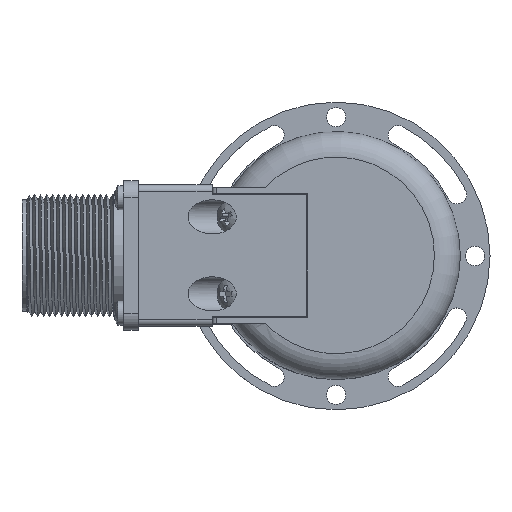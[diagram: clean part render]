
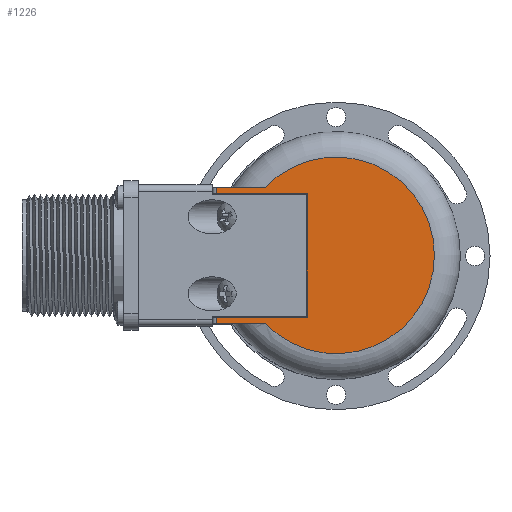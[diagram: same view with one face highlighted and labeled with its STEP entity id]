
A CAD part, top view. The second image highlights one B-rep face of the part: STEP entity #1226.
In plain terms, the highlighted planar face has unit normal (0, 0, 1).
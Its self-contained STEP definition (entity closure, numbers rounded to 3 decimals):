
#1226 = ADVANCED_FACE( '', ( #3090 ), #3091, .T. );
#3090 = FACE_OUTER_BOUND( '', #8658, .T. );
#3091 = PLANE( '', #8659 );
#8658 = EDGE_LOOP( '', ( #23959, #23960, #23961, #23962, #23963, #23964, #23965, #23966 ) );
#8659 = AXIS2_PLACEMENT_3D( '', #23967, #23968, #23969 );
#23959 = ORIENTED_EDGE( '', *, *, #29591, .T. );
#23960 = ORIENTED_EDGE( '', *, *, #29592, .T. );
#23961 = ORIENTED_EDGE( '', *, *, #29593, .T. );
#23962 = ORIENTED_EDGE( '', *, *, #29594, .T. );
#23963 = ORIENTED_EDGE( '', *, *, #29595, .F. );
#23964 = ORIENTED_EDGE( '', *, *, #29596, .F. );
#23965 = ORIENTED_EDGE( '', *, *, #29597, .T. );
#23966 = ORIENTED_EDGE( '', *, *, #29598, .T. );
#23967 = CARTESIAN_POINT( '', ( -29., 29., 55.8 ) );
#23968 = DIRECTION( '', ( 0., 0., 1. ) );
#23969 = DIRECTION( '', ( 0., -1., 0. ) );
#29591 = EDGE_CURVE( '', #32721, #32722, #32723, .T. );
#29592 = EDGE_CURVE( '', #32722, #32724, #32725, .T. );
#29593 = EDGE_CURVE( '', #32724, #32726, #32727, .T. );
#29594 = EDGE_CURVE( '', #32726, #32728, #32729, .T. );
#29595 = EDGE_CURVE( '', #32730, #32728, #32731, .T. );
#29596 = EDGE_CURVE( '', #32732, #32730, #32733, .T. );
#29597 = EDGE_CURVE( '', #32732, #32734, #32735, .T. );
#29598 = EDGE_CURVE( '', #32734, #32721, #32736, .T. );
#32721 = VERTEX_POINT( '', #39934 );
#32722 = VERTEX_POINT( '', #39935 );
#32723 = CIRCLE( '', #39936, 23. );
#32724 = VERTEX_POINT( '', #39937 );
#32725 = LINE( '', #39938, #39939 );
#32726 = VERTEX_POINT( '', #39940 );
#32727 = LINE( '', #39941, #39942 );
#32728 = VERTEX_POINT( '', #39943 );
#32729 = LINE( '', #39944, #39945 );
#32730 = VERTEX_POINT( '', #39946 );
#32731 = LINE( '', #39947, #39948 );
#32732 = VERTEX_POINT( '', #39949 );
#32733 = LINE( '', #39950, #39951 );
#32734 = VERTEX_POINT( '', #39952 );
#32735 = LINE( '', #39953, #39954 );
#32736 = LINE( '', #39955, #39956 );
#39934 = CARTESIAN_POINT( '', ( -16.523, -16., 55.8 ) );
#39935 = CARTESIAN_POINT( '', ( -16.523, 16., 55.8 ) );
#39936 = AXIS2_PLACEMENT_3D( '', #46830, #46831, #46832 );
#39937 = CARTESIAN_POINT( '', ( -28., 16., 55.8 ) );
#39938 = CARTESIAN_POINT( '', ( -29., 16., 55.8 ) );
#39939 = VECTOR( '', #46833, 1000. );
#39940 = CARTESIAN_POINT( '', ( -28., 14.5, 55.8 ) );
#39941 = CARTESIAN_POINT( '', ( -28., 14.5, 55.8 ) );
#39942 = VECTOR( '', #46834, 1000. );
#39943 = CARTESIAN_POINT( '', ( -6.7, 14.5, 55.8 ) );
#39944 = CARTESIAN_POINT( '', ( -29., 14.5, 55.8 ) );
#39945 = VECTOR( '', #46835, 1000. );
#39946 = CARTESIAN_POINT( '', ( -6.7, -14.5, 55.8 ) );
#39947 = CARTESIAN_POINT( '', ( -6.7, -14.5, 55.8 ) );
#39948 = VECTOR( '', #46836, 1000. );
#39949 = CARTESIAN_POINT( '', ( -28., -14.5, 55.8 ) );
#39950 = CARTESIAN_POINT( '', ( -29., -14.5, 55.8 ) );
#39951 = VECTOR( '', #46837, 1000. );
#39952 = CARTESIAN_POINT( '', ( -28., -16., 55.8 ) );
#39953 = CARTESIAN_POINT( '', ( -28., -16., 55.8 ) );
#39954 = VECTOR( '', #46838, 1000. );
#39955 = CARTESIAN_POINT( '', ( -24.187, -16., 55.8 ) );
#39956 = VECTOR( '', #46839, 1000. );
#46830 = CARTESIAN_POINT( '', ( 0., 0., 55.8 ) );
#46831 = DIRECTION( '', ( 0., 0., 1. ) );
#46832 = DIRECTION( '', ( 0., -1., 0. ) );
#46833 = DIRECTION( '', ( -1., 0., 0. ) );
#46834 = DIRECTION( '', ( 0., -1., 0. ) );
#46835 = DIRECTION( '', ( 1., 0., 0. ) );
#46836 = DIRECTION( '', ( 0., 1., 0. ) );
#46837 = DIRECTION( '', ( 1., 0., 0. ) );
#46838 = DIRECTION( '', ( 0., -1., 0. ) );
#46839 = DIRECTION( '', ( 1., 0., 0. ) );
